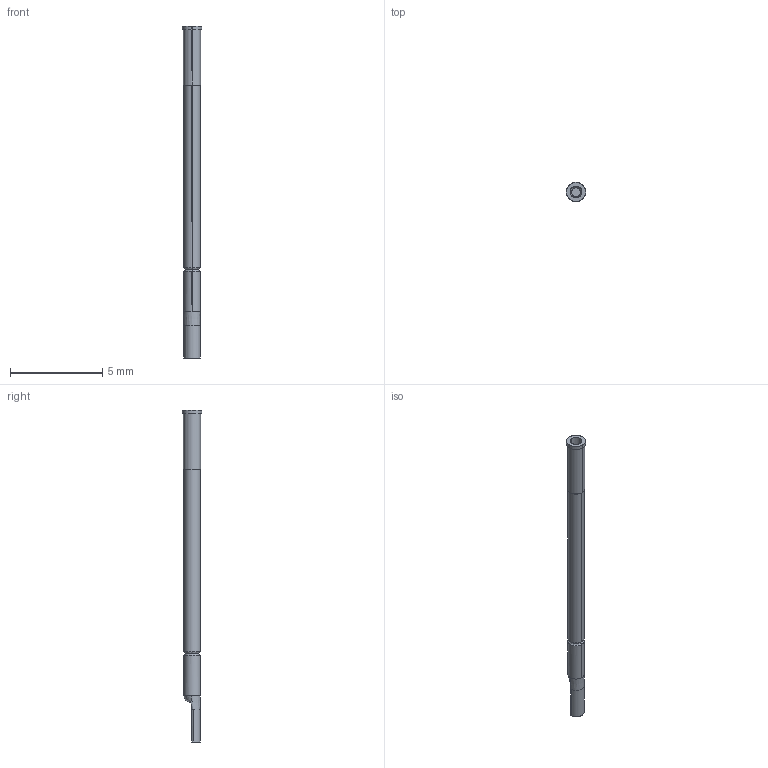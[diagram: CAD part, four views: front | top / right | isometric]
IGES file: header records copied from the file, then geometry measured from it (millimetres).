
Start section: SolidWorks IGES file using analytic representation for surfaces
Global section: file name: \\coda-svr01\FolderRedirection\georged\Documents\CODA CAD FILES\GENERAL PURPOSE TEST PROBES\SHORT REACH TEST PROBES\PA1\RA1SF TECON.IGS; native system: SolidWorks 2024; preprocessor: SolidWorks 2024; author: GeorgeD; date: 260722.152237; units: millimetre
Bounding box: 1.05 x 1.05 x 18 mm (x, y, z)
Surface area: 82.9 mm2 (no closed solid volume)
Topology: 0 solids, 0 shells, 29 faces, 264 edges, 264 vertices
Faces by surface type: bspline 17, revolution 12
